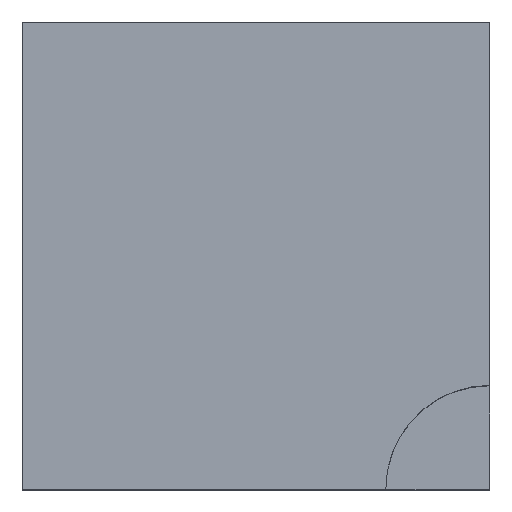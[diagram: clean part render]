
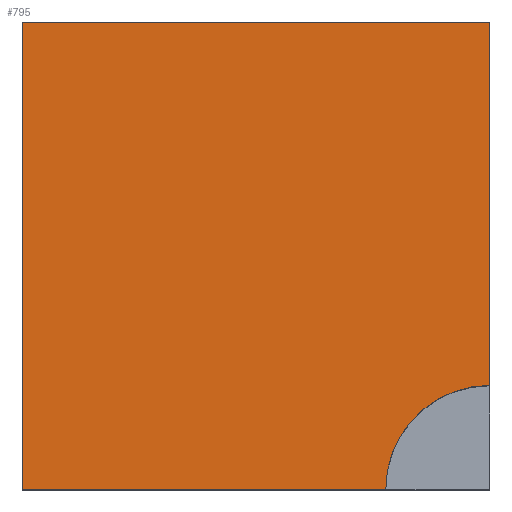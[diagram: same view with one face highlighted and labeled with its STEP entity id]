
A CAD part, top view. The second image highlights one B-rep face of the part: STEP entity #795.
In plain terms, the highlighted planar face has unit normal (0, 0, 1).
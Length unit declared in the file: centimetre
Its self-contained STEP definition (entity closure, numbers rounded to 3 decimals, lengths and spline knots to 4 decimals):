
#2 = DIRECTION ( 'NONE',  ( 0., 0., 1. ) ) ;
#23 = VERTEX_POINT ( 'NONE', #538 ) ;
#51 = LINE ( 'NONE', #548, #99 ) ;
#57 = CARTESIAN_POINT ( 'NONE',  ( 1000., 0., 1000. ) ) ;
#99 = VECTOR ( 'NONE', #498, 100. ) ;
#105 = CARTESIAN_POINT ( 'NONE',  ( 777.7535, 0., 1000. ) ) ;
#113 = CIRCLE ( 'NONE', #401, 222.2465 ) ;
#117 = VERTEX_POINT ( 'NONE', #105 ) ;
#120 = DIRECTION ( 'NONE',  ( 1., 0., 0. ) ) ;
#153 = LINE ( 'NONE', #347, #309 ) ;
#203 = VECTOR ( 'NONE', #412, 100. ) ;
#221 = DIRECTION ( 'NONE',  ( 1., 0., 0. ) ) ;
#226 = CARTESIAN_POINT ( 'NONE',  ( 0., 0., 1000. ) ) ;
#256 = ORIENTED_EDGE ( 'NONE', *, *, #295, .T. ) ;
#295 = EDGE_CURVE ( 'NONE', #409, #625, #544, .T. ) ;
#301 = EDGE_CURVE ( 'NONE', #522, #117, #51, .T. ) ;
#309 = VECTOR ( 'NONE', #596, 100. ) ;
#325 = EDGE_CURVE ( 'NONE', #409, #117, #113, .T. ) ;
#347 = CARTESIAN_POINT ( 'NONE',  ( 0., 1000., 1000. ) ) ;
#360 = LINE ( 'NONE', #551, #472 ) ;
#401 = AXIS2_PLACEMENT_3D ( 'NONE', #57, #2, #120 ) ;
#409 = VERTEX_POINT ( 'NONE', #569 ) ;
#412 = DIRECTION ( 'NONE',  ( 0., 1., 0. ) ) ;
#436 = ORIENTED_EDGE ( 'NONE', *, *, #505, .T. ) ;
#472 = VECTOR ( 'NONE', #794, 100. ) ;
#480 = CARTESIAN_POINT ( 'NONE',  ( 1000., 1000., 1000. ) ) ;
#498 = DIRECTION ( 'NONE',  ( 1., 0., 0. ) ) ;
#505 = EDGE_CURVE ( 'NONE', #625, #23, #153, .T. ) ;
#509 = EDGE_LOOP ( 'NONE', ( #577, #256, #436, #616, #660 ) ) ;
#522 = VERTEX_POINT ( 'NONE', #652 ) ;
#534 = FACE_OUTER_BOUND ( 'NONE', #509, .T. ) ;
#538 = CARTESIAN_POINT ( 'NONE',  ( 0., 1000., 1000. ) ) ;
#542 = CARTESIAN_POINT ( 'NONE',  ( 1000., 1000., 1000. ) ) ;
#544 = LINE ( 'NONE', #480, #203 ) ;
#548 = CARTESIAN_POINT ( 'NONE',  ( 0., 0., 1000. ) ) ;
#551 = CARTESIAN_POINT ( 'NONE',  ( 0., 1000., 1000. ) ) ;
#569 = CARTESIAN_POINT ( 'NONE',  ( 1000., 222.2465, 1000. ) ) ;
#577 = ORIENTED_EDGE ( 'NONE', *, *, #325, .F. ) ;
#591 = DIRECTION ( 'NONE',  ( 0., 0., 1. ) ) ;
#596 = DIRECTION ( 'NONE',  ( -1., 0., 0. ) ) ;
#616 = ORIENTED_EDGE ( 'NONE', *, *, #649, .T. ) ;
#625 = VERTEX_POINT ( 'NONE', #542 ) ;
#649 = EDGE_CURVE ( 'NONE', #23, #522, #360, .T. ) ;
#652 = CARTESIAN_POINT ( 'NONE',  ( 0., 0., 1000. ) ) ;
#660 = ORIENTED_EDGE ( 'NONE', *, *, #301, .T. ) ;
#695 = AXIS2_PLACEMENT_3D ( 'NONE', #226, #591, #221 ) ;
#772 = PLANE ( 'NONE',  #695 ) ;
#794 = DIRECTION ( 'NONE',  ( 0., -1., 0. ) ) ;
#795 = ADVANCED_FACE ( 'NONE', ( #534 ), #772, .T. ) ;
